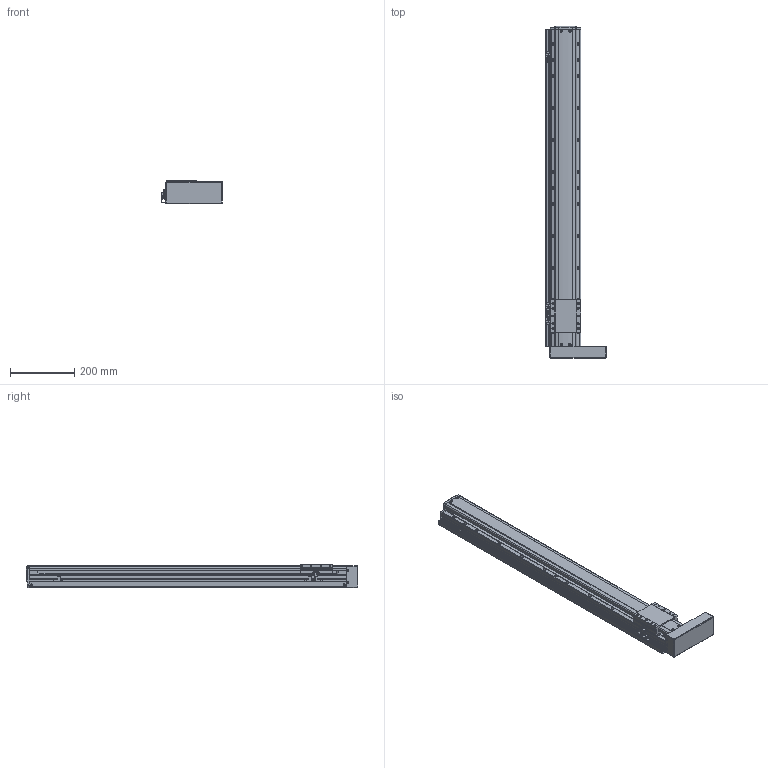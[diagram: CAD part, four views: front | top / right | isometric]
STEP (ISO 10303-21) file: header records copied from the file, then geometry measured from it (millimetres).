
FILE_DESCRIPTION(('STEP AP214'),'1');
FILE_NAME('Z:/Web/3D/PSA95/STP/PSA95-800 (3D)/PSA95ㅁㅁ-800PR+3SL.stp','2014-07-03T00:55:53',(' '),(' '),'Spatial InterOp 3D',' ',' ');
FILE_SCHEMA(('automotive_design'));
Length unit declared in the file: millimetre
Products named in the file (41): BASE; RRCV; 스크루 : Round - M4.0 x 10.0; 너트 : Square - M10.0 x 220.7419; RR1500; FRCV-090; 스크루 : Round - M4.0 x 6.0; SLBL-PA90; MOTOR PLATE COVER; 스크루 : Round - M3.0 x 6.0; EE-SX674; SBK-SX674-352; M3.0 x 6.0; SRL-16x17-380L; SGD-PA95; 스크루 : Round - M3.0 x 8.0
Bounding box: 192.06 x 1036.5 x 74 mm (x, y, z)
Volume: 5888146.3 mm3; surface area: 689403.6 mm2
Topology: 41 solids, 41 shells, 2456 faces, 6554 edges, 4202 vertices
Faces by surface type: plane 1412, cylinder 715, cone 229, sphere 62, bspline 24, torus 14
Entity records: 98584 total; most frequent: CARTESIAN_POINT 16376, DIRECTION 13044, ORIENTED_EDGE 12820, EDGE_CURVE 6410, LINE 4356, VECTOR 4356, AXIS2_PLACEMENT_3D 4344, VERTEX_POINT 4202
